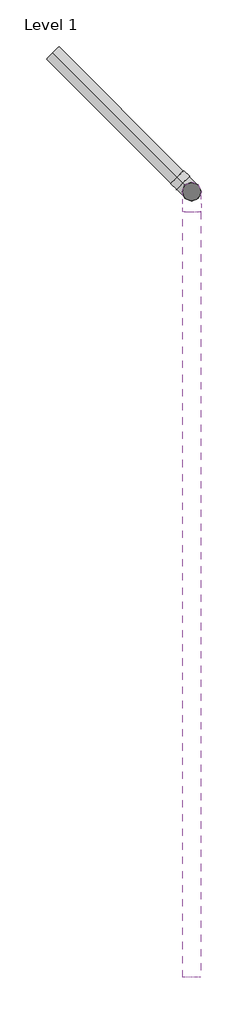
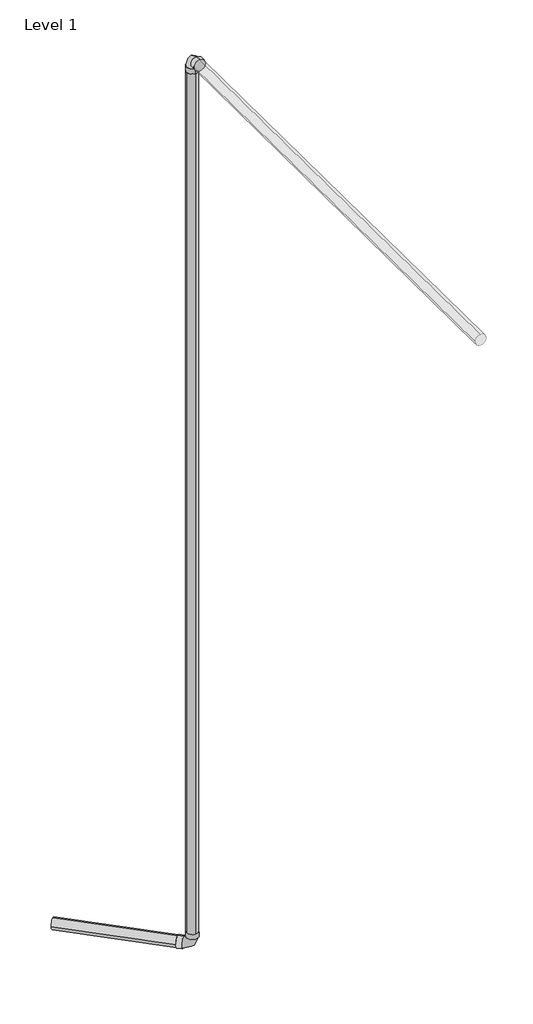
# One storey: 3 pipe segments, 2 pipe fittings.
"""IFC4 building model written with IfcOpenShell, lengths in millimetres."""

from ifc_helpers import new_model, si_unit, point, frame, frame_2d, origin, place, context, project, spatial, circle_curve, trimmed, segment, composite_curve, outline, extrude, transform, mapped, element, save
from components import bend_pvc_sch_40_dwv_standard_c085084d

model = new_model("IFC4")

# Units and contexts
model_context = context("Model", 3, world=origin())
ifc_project = project(units=[si_unit("LENGTHUNIT", "METRE", prefix="MILLI")], contexts=[model_context])

# Site, building, storey
site = spatial("IfcSite", under=ifc_project)
building = spatial("IfcBuilding", under=site)
storey = spatial("IfcBuildingStorey", under=building, Name="Level 1", Elevation=0.0)

# Pipe fittings
placement = place(None, origin())
bend_pvc_sch_40_dwv_standard_shape = bend_pvc_sch_40_dwv_standard_c085084d(model_context)
element("IfcPipeFitting", 1, ObjectType="Bend - PVC - Sch 40 - DWV : Standard", at=placement, inside=storey, context=model_context, shape_type="MappedRepresentation", body=[
    mapped(bend_pvc_sch_40_dwv_standard_shape, transform((-16807.3735977, 8721.0036112, 17553.8761239), x_axis=(0.0, 0.9999457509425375, -0.01041610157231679), y_axis=(0.0, -0.01041610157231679, -0.9999457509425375), z_axis=(-1.0, 0.0, 0.0))),
])
element("IfcPipeFitting", 2, ObjectType="Bend - PVC - Sch 40 - DWV : Standard", at=placement, inside=storey, context=model_context, shape_type="MappedRepresentation", body=[
    mapped(bend_pvc_sch_40_dwv_standard_shape, transform((-16807.3735977, 8721.0036112, -694.9653992), x_axis=(0.0, 0.0, -1.0), y_axis=(-0.7071067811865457, 0.7071067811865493, 0.0), z_axis=(0.7071067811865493, 0.7071067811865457, 0.0))),
])

# Pipe segments
element("IfcPipeSegment", 3, ObjectType="PVC - DWV", at=placement, inside=storey, context=model_context, shape_type="SweptSolid", body=[
    extrude(outline(composite_curve([segment(trimmed(circle_curve(frame_2d((0.0, -109.5375)), 109.5375), [point((109.5375, -109.5375))], [point((0.0, -219.075))], False, "CARTESIAN"), True, "CONTINUOUS"), segment(trimmed(circle_curve(frame_2d((0.0, -109.5375)), 109.5375), [point((0.0, -219.075))], [point((-109.5375, -109.5375))], False, "CARTESIAN"), True, "CONTINUOUS"), segment(trimmed(circle_curve(frame_2d((0.0, -109.5375)), 109.5375), [point((-109.5375, -109.5375))], [point((0.0, 0.0))], False, "CARTESIAN"), True, "CONTINUOUS"), segment(trimmed(circle_curve(frame_2d((0.0, -109.5375)), 109.5375), [point((0.0, 0.0))], [point((109.5375, -109.5375))], False, "CARTESIAN"), True, "CONTINUOUS")], self_intersect=False)), frame((-16807.3735977, 8468.1583442, 17666.0533714), z_axis=(0.0, -0.9999457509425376, 0.010416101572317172), x_axis=(1.0, 0.0, 0.0)), (0.0, 0.0, 1.0), 9500.1567123),
])
element("IfcPipeSegment", 4, ObjectType="PVC - DWV", at=placement, inside=storey, context=model_context, shape_type="SweptSolid", body=[
    extrude(outline(composite_curve([segment(trimmed(circle_curve(frame_2d((0.0, -109.5374999)), 109.5375), [point((109.5315584, -108.3966081))], [point((1.1408918, -219.0690583))], False, "CARTESIAN"), True, "CONTINUOUS"), segment(trimmed(circle_curve(frame_2d((0.0, -109.5374999)), 109.5375), [point((1.1408918, -219.0690583))], [point((-109.5315583, -110.6783918))], False, "CARTESIAN"), True, "CONTINUOUS"), segment(trimmed(circle_curve(frame_2d((0.0, -109.5374999)), 109.5375), [point((-109.5315583, -110.6783918))], [point((-1.1408918, -0.0059416))], False, "CARTESIAN"), True, "CONTINUOUS"), segment(trimmed(circle_curve(frame_2d((0.0, -109.5374999)), 109.5375), [point((-1.1408918, -0.0059416))], [point((109.5315584, -108.3966081))], False, "CARTESIAN"), True, "CONTINUOUS")], self_intersect=False)), frame((-18531.5827729, 10446.8262511, -610.8397829), z_axis=(0.7070684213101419, -0.7070684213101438, 0.010416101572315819), x_axis=(0.707145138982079, 0.7069917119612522, -0.010414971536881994)), (0.0, 0.0, 1.0), 2184.5322881),
])
element("IfcPipeSegment", 5, ObjectType="PVC - DWV", at=placement, inside=storey, context=model_context, shape_type="SweptSolid", body=[
    extrude(outline(composite_curve([segment(trimmed(circle_curve(frame_2d((-16807.3735977, 8721.0036112)), 109.5375), [point((-16697.8360977, 8721.0036112))], [point((-16807.3735977, 8611.4661112))], False, "CARTESIAN"), True, "CONTINUOUS"), segment(trimmed(circle_curve(frame_2d((-16807.3735977, 8721.0036112)), 109.5375), [point((-16807.3735977, 8611.4661112))], [point((-16916.9110977, 8721.0036112))], False, "CARTESIAN"), True, "CONTINUOUS"), segment(trimmed(circle_curve(frame_2d((-16807.3735977, 8721.0036112)), 109.5375), [point((-16916.9110977, 8721.0036112))], [point((-16807.3735977, 8830.5411112))], False, "CARTESIAN"), True, "CONTINUOUS"), segment(trimmed(circle_curve(frame_2d((-16807.3735977, 8721.0036112)), 109.5375), [point((-16807.3735977, 8830.5411112))], [point((-16697.8360977, 8721.0036112))], False, "CARTESIAN"), True, "CONTINUOUS")], self_intersect=False)), frame((0.0, 0.0, -440.9653992), z_axis=(0.0, 0.0, 1.0), x_axis=(1.0, 0.0, 0.0)), (0.0, 0.0, 1.0), 17740.8415231),
])

save(model, "model.ifc")
